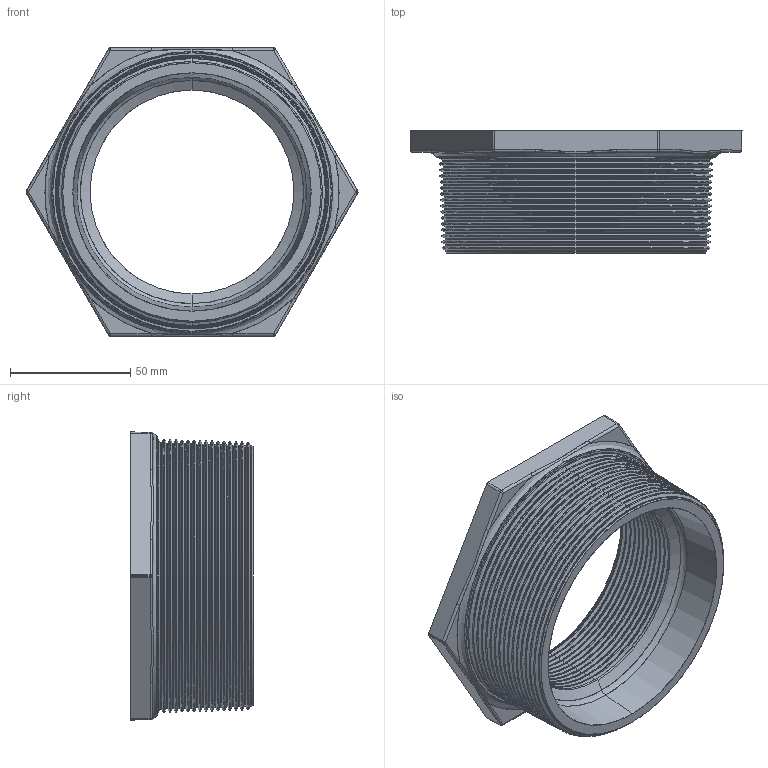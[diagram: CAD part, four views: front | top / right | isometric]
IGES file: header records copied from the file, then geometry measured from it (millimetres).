
Start section: SolidWorks IGES file using analytic representation for surfaces
Global section: file name: C:\Users\Joel Rosa\Desktop\Tubulação\12-01-OK\12-01-060.IGS; native system: SolidWorks 2011; preprocessor: SolidWorks 2011; author: Joel Rosa; date: 121203.200828; units: millimetre
Bounding box: 138.25 x 51 x 120 mm (x, y, z)
Surface area: 59331.7 mm2 (no closed solid volume)
Topology: 0 solids, 0 shells, 471 faces, 3487 edges, 3487 vertices
Faces by surface type: bspline 317, revolution 154
